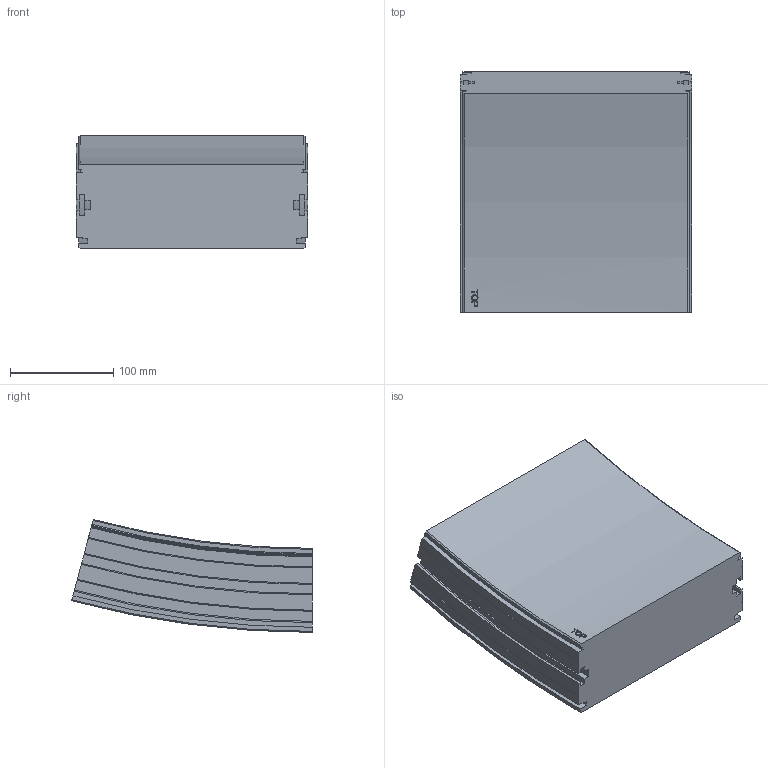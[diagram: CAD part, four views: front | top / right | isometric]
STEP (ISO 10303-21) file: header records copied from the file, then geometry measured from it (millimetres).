
FILE_DESCRIPTION(/* description */ ('VERTIKALKURVA S220 R860'),/* implementation_level */ '2;1');
FILE_NAME(/* name */ '\\carryline.intra\privat\users\mathias\Desktop\Tillfälliga filer\220-5695+220-2000-UPP-01.stp',/* time_stamp */ '2018-11-29T14:53:40+01:00',/* author */ ('MD'),/* organization */ ('CARRYLINE'),/* preprocessor_version */ 'ST-DEVELOPER v17',/* originating_system */ 'Autodesk Inventor 2018',/* authorisation */ '');
FILE_SCHEMA (('AUTOMOTIVE_DESIGN { 1 0 10303 214 3 1 1 }'));
Length unit declared in the file: millimetre
Products named in the file (1): 220-5695+220-2000-UPP-01
Bounding box: 224 x 233.45 x 109.46 mm (x, y, z)
Volume: 3989288.8 mm3; surface area: 205340.3 mm2
Topology: 1 solids, 1 shells, 113 faces, 318 edges, 212 vertices
Faces by surface type: plane 48, cylinder 31, bspline 14, cone 14, torus 6
Entity records: 8349 total; most frequent: CARTESIAN_POINT 5381, ORIENTED_EDGE 636, DIRECTION 576, EDGE_CURVE 318, VERTEX_POINT 212, AXIS2_PLACEMENT_3D 199, LINE 178, VECTOR 178
